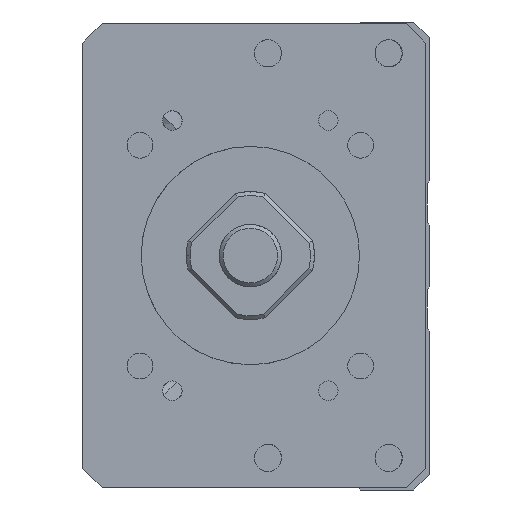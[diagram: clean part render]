
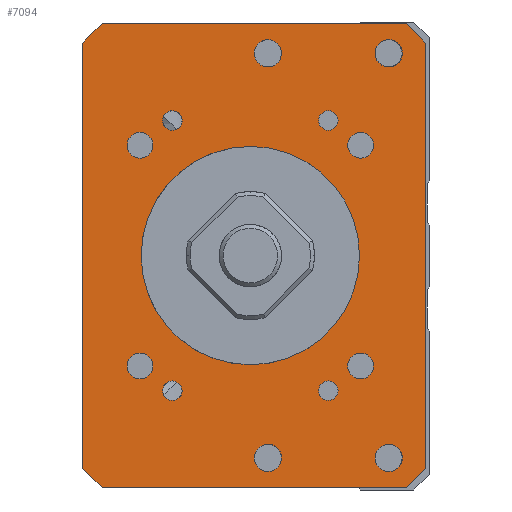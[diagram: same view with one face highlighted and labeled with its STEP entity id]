
A CAD part, left-side view. The second image highlights one B-rep face of the part: STEP entity #7094.
In plain terms, the highlighted planar face has unit normal (-1, 0, 0).
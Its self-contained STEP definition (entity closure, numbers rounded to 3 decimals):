
#4243=CIRCLE('',#13997,14.);
#4252=CIRCLE('',#14008,1.65);
#4253=CIRCLE('',#14009,1.65);
#4254=CIRCLE('',#14010,1.65);
#4255=CIRCLE('',#14011,1.65);
#4256=CIRCLE('',#14012,1.25);
#4257=CIRCLE('',#14013,1.75);
#4258=CIRCLE('',#14014,1.25);
#4259=CIRCLE('',#14015,1.75);
#4260=CIRCLE('',#14016,1.25);
#4261=CIRCLE('',#14017,1.75);
#4262=CIRCLE('',#14018,1.75);
#4263=CIRCLE('',#14019,1.25);
#4658=PLANE('',#14020);
#5517=LINE('',#18141,#6324);
#5519=LINE('',#18165,#6326);
#5520=LINE('',#18167,#6327);
#5521=LINE('',#18169,#6328);
#5522=LINE('',#18171,#6329);
#5523=LINE('',#18173,#6330);
#5524=LINE('',#18175,#6331);
#5525=LINE('',#18177,#6332);
#6324=VECTOR('',#15372,1.);
#6326=VECTOR('',#15396,1.);
#6327=VECTOR('',#15397,1.);
#6328=VECTOR('',#15398,1.);
#6329=VECTOR('',#15399,1.);
#6330=VECTOR('',#15400,1.);
#6331=VECTOR('',#15401,1.);
#6332=VECTOR('',#15402,1.);
#7094=ADVANCED_FACE('',(#7801,#7802,#7803,#7804,#7805,#7806,#7807,#7808,
#7809,#7810,#7811,#7812,#7813,#7814),#4658,.F.);
#7801=FACE_BOUND('',#8259,.T.);
#7802=FACE_BOUND('',#8260,.T.);
#7803=FACE_BOUND('',#8261,.T.);
#7804=FACE_BOUND('',#8262,.T.);
#7805=FACE_BOUND('',#8263,.T.);
#7806=FACE_BOUND('',#8264,.T.);
#7807=FACE_BOUND('',#8265,.T.);
#7808=FACE_BOUND('',#8266,.T.);
#7809=FACE_BOUND('',#8267,.T.);
#7810=FACE_BOUND('',#8268,.T.);
#7811=FACE_BOUND('',#8269,.T.);
#7812=FACE_BOUND('',#8270,.T.);
#7813=FACE_BOUND('',#8271,.T.);
#7814=FACE_BOUND('',#8272,.T.);
#8259=EDGE_LOOP('',(#9475));
#8260=EDGE_LOOP('',(#9476));
#8261=EDGE_LOOP('',(#9477));
#8262=EDGE_LOOP('',(#9478));
#8263=EDGE_LOOP('',(#9479));
#8264=EDGE_LOOP('',(#9480));
#8265=EDGE_LOOP('',(#9481));
#8266=EDGE_LOOP('',(#9482));
#8267=EDGE_LOOP('',(#9483));
#8268=EDGE_LOOP('',(#9484,#9485,#9486,#9487,#9488,#9489,#9490,#9491));
#8269=EDGE_LOOP('',(#9492));
#8270=EDGE_LOOP('',(#9493));
#8271=EDGE_LOOP('',(#9494));
#8272=EDGE_LOOP('',(#9495));
#9475=ORIENTED_EDGE('',*,*,#12699,.F.);
#9476=ORIENTED_EDGE('',*,*,#12700,.F.);
#9477=ORIENTED_EDGE('',*,*,#12701,.F.);
#9478=ORIENTED_EDGE('',*,*,#12702,.F.);
#9479=ORIENTED_EDGE('',*,*,#12703,.F.);
#9480=ORIENTED_EDGE('',*,*,#12704,.T.);
#9481=ORIENTED_EDGE('',*,*,#12705,.F.);
#9482=ORIENTED_EDGE('',*,*,#12706,.F.);
#9483=ORIENTED_EDGE('',*,*,#12707,.F.);
#9484=ORIENTED_EDGE('',*,*,#12696,.T.);
#9485=ORIENTED_EDGE('',*,*,#12708,.T.);
#9486=ORIENTED_EDGE('',*,*,#12709,.F.);
#9487=ORIENTED_EDGE('',*,*,#12710,.T.);
#9488=ORIENTED_EDGE('',*,*,#12711,.F.);
#9489=ORIENTED_EDGE('',*,*,#12712,.T.);
#9490=ORIENTED_EDGE('',*,*,#12713,.T.);
#9491=ORIENTED_EDGE('',*,*,#12714,.T.);
#9492=ORIENTED_EDGE('',*,*,#12715,.F.);
#9493=ORIENTED_EDGE('',*,*,#12716,.F.);
#9494=ORIENTED_EDGE('',*,*,#12717,.F.);
#9495=ORIENTED_EDGE('',*,*,#12676,.F.);
#11678=VERTEX_POINT('',#18064);
#11698=VERTEX_POINT('',#18140);
#11699=VERTEX_POINT('',#18142);
#11701=VERTEX_POINT('',#18148);
#11702=VERTEX_POINT('',#18150);
#11703=VERTEX_POINT('',#18152);
#11704=VERTEX_POINT('',#18154);
#11705=VERTEX_POINT('',#18156);
#11706=VERTEX_POINT('',#18158);
#11707=VERTEX_POINT('',#18160);
#11708=VERTEX_POINT('',#18162);
#11709=VERTEX_POINT('',#18164);
#11710=VERTEX_POINT('',#18166);
#11711=VERTEX_POINT('',#18168);
#11712=VERTEX_POINT('',#18170);
#11713=VERTEX_POINT('',#18172);
#11714=VERTEX_POINT('',#18174);
#11715=VERTEX_POINT('',#18176);
#11716=VERTEX_POINT('',#18179);
#11717=VERTEX_POINT('',#18181);
#11718=VERTEX_POINT('',#18183);
#12676=EDGE_CURVE('',#11678,#11678,#4243,.T.);
#12696=EDGE_CURVE('',#11699,#11698,#5517,.T.);
#12699=EDGE_CURVE('',#11701,#11701,#4252,.T.);
#12700=EDGE_CURVE('',#11702,#11702,#4253,.T.);
#12701=EDGE_CURVE('',#11703,#11703,#4254,.T.);
#12702=EDGE_CURVE('',#11704,#11704,#4255,.T.);
#12703=EDGE_CURVE('',#11705,#11705,#4256,.T.);
#12704=EDGE_CURVE('',#11706,#11706,#4257,.T.);
#12705=EDGE_CURVE('',#11707,#11707,#4258,.T.);
#12706=EDGE_CURVE('',#11708,#11708,#4259,.T.);
#12707=EDGE_CURVE('',#11709,#11709,#4260,.T.);
#12708=EDGE_CURVE('',#11698,#11710,#5519,.T.);
#12709=EDGE_CURVE('',#11711,#11710,#5520,.T.);
#12710=EDGE_CURVE('',#11711,#11712,#5521,.T.);
#12711=EDGE_CURVE('',#11713,#11712,#5522,.T.);
#12712=EDGE_CURVE('',#11713,#11714,#5523,.T.);
#12713=EDGE_CURVE('',#11714,#11715,#5524,.T.);
#12714=EDGE_CURVE('',#11715,#11699,#5525,.T.);
#12715=EDGE_CURVE('',#11716,#11716,#4261,.T.);
#12716=EDGE_CURVE('',#11717,#11717,#4262,.T.);
#12717=EDGE_CURVE('',#11718,#11718,#4263,.T.);
#13997=AXIS2_PLACEMENT_3D('',#18063,#15346,#15347);
#14008=AXIS2_PLACEMENT_3D('',#18147,#15378,#15379);
#14009=AXIS2_PLACEMENT_3D('',#18149,#15380,#15381);
#14010=AXIS2_PLACEMENT_3D('',#18151,#15382,#15383);
#14011=AXIS2_PLACEMENT_3D('',#18153,#15384,#15385);
#14012=AXIS2_PLACEMENT_3D('',#18155,#15386,#15387);
#14013=AXIS2_PLACEMENT_3D('',#18157,#15388,#15389);
#14014=AXIS2_PLACEMENT_3D('',#18159,#15390,#15391);
#14015=AXIS2_PLACEMENT_3D('',#18161,#15392,#15393);
#14016=AXIS2_PLACEMENT_3D('',#18163,#15394,#15395);
#14017=AXIS2_PLACEMENT_3D('',#18178,#15403,#15404);
#14018=AXIS2_PLACEMENT_3D('',#18180,#15405,#15406);
#14019=AXIS2_PLACEMENT_3D('',#18182,#15407,#15408);
#14020=AXIS2_PLACEMENT_3D('',#18184,#15409,#15410);
#15346=DIRECTION('',(-1.,0.,0.));
#15347=DIRECTION('',(0.,1.,0.));
#15372=DIRECTION('',(0.,0.,-1.));
#15378=DIRECTION('',(-1.,0.,0.));
#15379=DIRECTION('',(0.,0.,1.));
#15380=DIRECTION('',(-1.,0.,0.));
#15381=DIRECTION('',(0.,0.,1.));
#15382=DIRECTION('',(-1.,0.,0.));
#15383=DIRECTION('',(0.,0.,1.));
#15384=DIRECTION('',(-1.,0.,0.));
#15385=DIRECTION('',(0.,0.,1.));
#15386=DIRECTION('',(-1.,0.,0.));
#15387=DIRECTION('',(0.,1.,0.));
#15388=DIRECTION('',(1.,0.,0.));
#15389=DIRECTION('',(0.,0.,1.));
#15390=DIRECTION('',(-1.,0.,0.));
#15391=DIRECTION('',(0.,1.,0.));
#15392=DIRECTION('',(-1.,0.,0.));
#15393=DIRECTION('',(0.,0.,1.));
#15394=DIRECTION('',(-1.,0.,0.));
#15395=DIRECTION('',(0.,1.,0.));
#15396=DIRECTION('',(0.,-0.707,-0.707));
#15397=DIRECTION('',(0.,1.,0.));
#15398=DIRECTION('',(0.,-0.707,0.707));
#15399=DIRECTION('',(0.,0.,-1.));
#15400=DIRECTION('',(0.,0.707,0.707));
#15401=DIRECTION('',(0.,1.,0.));
#15402=DIRECTION('',(0.,0.707,-0.707));
#15403=DIRECTION('',(-1.,0.,0.));
#15404=DIRECTION('',(0.,0.,1.));
#15405=DIRECTION('',(-1.,0.,0.));
#15406=DIRECTION('',(0.,0.,1.));
#15407=DIRECTION('',(-1.,0.,0.));
#15408=DIRECTION('',(0.,1.,0.));
#15409=DIRECTION('',(1.,0.,0.));
#15410=DIRECTION('',(0.,-1.,0.));
#18063=CARTESIAN_POINT('',(-211.,0.,-500.));
#18064=CARTESIAN_POINT('',(-211.,14.,-500.));
#18140=CARTESIAN_POINT('',(-211.,21.499,-527.25));
#18141=CARTESIAN_POINT('',(-211.,21.499,-470.25));
#18142=CARTESIAN_POINT('',(-211.,21.499,-472.75));
#18147=CARTESIAN_POINT('',(-211.,14.142,-485.858));
#18148=CARTESIAN_POINT('',(-211.,14.142,-484.208));
#18149=CARTESIAN_POINT('',(-211.,-14.142,-485.858));
#18150=CARTESIAN_POINT('',(-211.,-14.142,-484.208));
#18151=CARTESIAN_POINT('',(-211.,14.142,-514.142));
#18152=CARTESIAN_POINT('',(-211.,14.142,-512.492));
#18153=CARTESIAN_POINT('',(-211.,-14.142,-514.142));
#18154=CARTESIAN_POINT('',(-211.,-14.142,-512.492));
#18155=CARTESIAN_POINT('',(-211.,-10.,-517.321));
#18156=CARTESIAN_POINT('',(-211.,-8.75,-517.321));
#18157=CARTESIAN_POINT('',(-211.,-2.25,-525.936));
#18158=CARTESIAN_POINT('',(-211.,-2.25,-524.186));
#18159=CARTESIAN_POINT('',(-211.,10.,-482.679));
#18160=CARTESIAN_POINT('',(-211.,11.25,-482.679));
#18161=CARTESIAN_POINT('',(-211.,-2.25,-474.064));
#18162=CARTESIAN_POINT('',(-211.,-2.25,-472.314));
#18163=CARTESIAN_POINT('',(-211.,10.,-517.321));
#18164=CARTESIAN_POINT('',(-211.,11.25,-517.321));
#18165=CARTESIAN_POINT('',(-211.,18.999,-529.75));
#18166=CARTESIAN_POINT('',(-211.,18.999,-529.75));
#18167=CARTESIAN_POINT('',(-211.,-22.501,-529.75));
#18168=CARTESIAN_POINT('',(-211.,-20.001,-529.75));
#18169=CARTESIAN_POINT('',(-211.,-22.501,-527.25));
#18170=CARTESIAN_POINT('',(-211.,-22.501,-527.25));
#18171=CARTESIAN_POINT('',(-211.,-22.501,-470.25));
#18172=CARTESIAN_POINT('',(-211.,-22.501,-472.75));
#18173=CARTESIAN_POINT('',(-211.,-22.501,-472.75));
#18174=CARTESIAN_POINT('',(-211.,-20.001,-470.25));
#18175=CARTESIAN_POINT('',(-211.,-22.501,-470.25));
#18176=CARTESIAN_POINT('',(-211.,18.999,-470.25));
#18177=CARTESIAN_POINT('',(-211.,18.999,-470.25));
#18178=CARTESIAN_POINT('',(-211.,-17.75,-474.064));
#18179=CARTESIAN_POINT('',(-211.,-17.75,-472.314));
#18180=CARTESIAN_POINT('',(-211.,-17.75,-525.936));
#18181=CARTESIAN_POINT('',(-211.,-17.75,-524.186));
#18182=CARTESIAN_POINT('',(-211.,-10.,-482.679));
#18183=CARTESIAN_POINT('',(-211.,-8.75,-482.679));
#18184=CARTESIAN_POINT('',(-211.,-22.501,-470.25));
